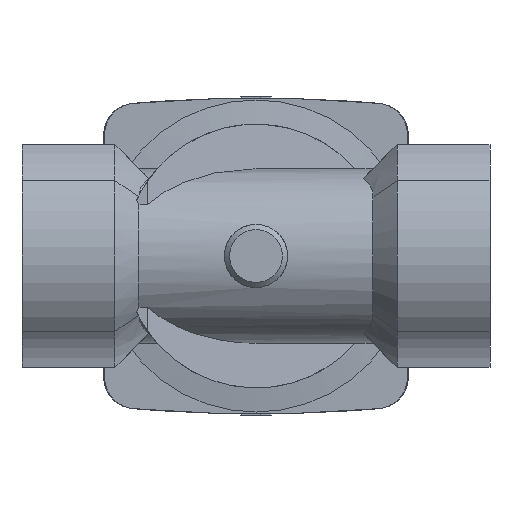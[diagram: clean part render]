
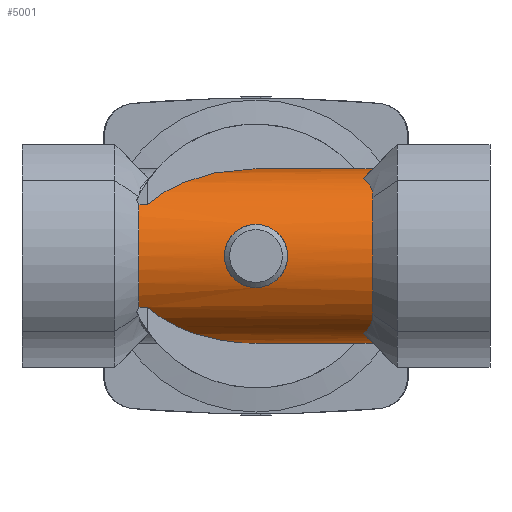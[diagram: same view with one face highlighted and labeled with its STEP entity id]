
A CAD part, front view. The second image highlights one B-rep face of the part: STEP entity #5001.
In plain terms, the highlighted cylindrical face has radius 23.5 mm (diameter 47 mm), a partial arc.
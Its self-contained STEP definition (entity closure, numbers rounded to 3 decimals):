
#236=B_SPLINE_CURVE_WITH_KNOTS('',3,(#7954,#7955,#7956,#7957,#7958),
 .UNSPECIFIED.,.F.,.F.,(4,1,4),(0.003,0.007,
0.012),.UNSPECIFIED.);
#237=B_SPLINE_CURVE_WITH_KNOTS('',3,(#7962,#7963,#7964,#7965,#7966),
 .UNSPECIFIED.,.F.,.F.,(4,1,4),(0.001,0.005,
0.009),.UNSPECIFIED.);
#238=B_SPLINE_CURVE_WITH_KNOTS('',3,(#7975,#7976,#7977,#7978,#7979,#7980,
#7981,#7982,#7983,#7984,#7985,#7986,#7987,#7988,#7989,#7990,#7991,#7992,
#7993),.UNSPECIFIED.,.T.,.F.,(1,1,1,1,1,1,1,1,1,1,1,1,1,1,1,1,1,1,1,1,1,
1,1),(-0.01,-0.007,-0.003,0.,
0.003,0.007,0.01,0.013,
0.017,0.02,0.023,0.027,
0.03,0.034,0.037,0.04,
0.044,0.047,0.05,0.054,
0.057,0.06,0.064),.UNSPECIFIED.);
#301=ELLIPSE('',#5844,43.148,23.5);
#302=ELLIPSE('',#5845,33.234,23.5);
#303=ELLIPSE('',#5847,33.234,23.5);
#304=ELLIPSE('',#5848,43.148,23.5);
#357=LINE('',#7946,#801);
#358=LINE('',#7950,#802);
#359=LINE('',#7970,#803);
#360=LINE('',#7974,#804);
#801=VECTOR('',#6399,1000.);
#802=VECTOR('',#6402,1000.);
#803=VECTOR('',#6409,1000.);
#804=VECTOR('',#6412,1000.);
#1245=ORIENTED_EDGE('',*,*,#2751,.F.);
#1246=ORIENTED_EDGE('',*,*,#2752,.F.);
#1247=ORIENTED_EDGE('',*,*,#2753,.F.);
#1248=ORIENTED_EDGE('',*,*,#2754,.F.);
#1249=ORIENTED_EDGE('',*,*,#2755,.T.);
#1250=ORIENTED_EDGE('',*,*,#2756,.F.);
#1251=ORIENTED_EDGE('',*,*,#2757,.T.);
#1252=ORIENTED_EDGE('',*,*,#2758,.F.);
#1253=ORIENTED_EDGE('',*,*,#2759,.T.);
#1254=ORIENTED_EDGE('',*,*,#2760,.F.);
#1255=ORIENTED_EDGE('',*,*,#2761,.F.);
#1256=ORIENTED_EDGE('',*,*,#2762,.F.);
#1257=ORIENTED_EDGE('',*,*,#2763,.F.);
#2751=EDGE_CURVE('',#3504,#3505,#4005,.T.);
#2752=EDGE_CURVE('',#3506,#3504,#357,.T.);
#2753=EDGE_CURVE('',#3507,#3506,#301,.F.);
#2754=EDGE_CURVE('',#3508,#3507,#358,.T.);
#2755=EDGE_CURVE('',#3508,#3509,#302,.T.);
#2756=EDGE_CURVE('',#3510,#3509,#236,.T.);
#2757=EDGE_CURVE('',#3510,#3511,#4006,.F.);
#2758=EDGE_CURVE('',#3512,#3511,#237,.T.);
#2759=EDGE_CURVE('',#3512,#3513,#303,.T.);
#2760=EDGE_CURVE('',#3514,#3513,#359,.T.);
#2761=EDGE_CURVE('',#3515,#3514,#304,.F.);
#2762=EDGE_CURVE('',#3505,#3515,#360,.F.);
#2763=EDGE_CURVE('',#3516,#3516,#238,.T.);
#3504=VERTEX_POINT('',#7944);
#3505=VERTEX_POINT('',#7945);
#3506=VERTEX_POINT('',#7947);
#3507=VERTEX_POINT('',#7949);
#3508=VERTEX_POINT('',#7951);
#3509=VERTEX_POINT('',#7953);
#3510=VERTEX_POINT('',#7959);
#3511=VERTEX_POINT('',#7961);
#3512=VERTEX_POINT('',#7967);
#3513=VERTEX_POINT('',#7969);
#3514=VERTEX_POINT('',#7971);
#3515=VERTEX_POINT('',#7973);
#3516=VERTEX_POINT('',#7994);
#4005=CIRCLE('',#5843,23.5);
#4006=CIRCLE('',#5846,23.5);
#4193=EDGE_LOOP('',(#1245,#1246,#1247,#1248,#1249,#1250,#1251,#1252,#1253,
#1254,#1255,#1256));
#4194=EDGE_LOOP('',(#1257));
#4545=FACE_BOUND('',#4193,.T.);
#4546=FACE_BOUND('',#4194,.T.);
#4897=CYLINDRICAL_SURFACE('',#5842,23.5);
#5001=ADVANCED_FACE('',(#4545,#4546),#4897,.T.);
#5842=AXIS2_PLACEMENT_3D('',#7942,#6395,#6396);
#5843=AXIS2_PLACEMENT_3D('',#7943,#6397,#6398);
#5844=AXIS2_PLACEMENT_3D('',#7948,#6400,#6401);
#5845=AXIS2_PLACEMENT_3D('',#7952,#6403,#6404);
#5846=AXIS2_PLACEMENT_3D('',#7960,#6405,#6406);
#5847=AXIS2_PLACEMENT_3D('',#7968,#6407,#6408);
#5848=AXIS2_PLACEMENT_3D('',#7972,#6410,#6411);
#6395=DIRECTION('',(-1.,0.,0.));
#6396=DIRECTION('',(0.,0.,1.));
#6397=DIRECTION('',(-1.,0.,0.));
#6398=DIRECTION('',(0.,0.,1.));
#6399=DIRECTION('',(-1.,0.,0.));
#6400=DIRECTION('',(0.545,-0.839,0.));
#6401=DIRECTION('',(-0.839,-0.545,0.));
#6402=DIRECTION('',(-1.,0.,0.));
#6403=DIRECTION('',(-0.707,0.,-0.707));
#6404=DIRECTION('',(-0.707,0.,0.707));
#6405=DIRECTION('',(1.,0.,0.));
#6406=DIRECTION('',(0.,0.,-1.));
#6407=DIRECTION('',(-0.707,0.,0.707));
#6408=DIRECTION('',(-0.707,0.,-0.707));
#6409=DIRECTION('',(1.,0.,0.));
#6410=DIRECTION('',(0.545,-0.839,0.));
#6411=DIRECTION('',(-0.839,-0.545,0.));
#6412=DIRECTION('',(-1.,0.,0.));
#7942=CARTESIAN_POINT('',(40.75,0.,0.));
#7943=CARTESIAN_POINT('',(-31.5,0.,0.));
#7944=CARTESIAN_POINT('',(-31.5,-19.,-13.829));
#7945=CARTESIAN_POINT('',(-31.5,-19.,13.829));
#7946=CARTESIAN_POINT('',(40.75,-19.,-13.829));
#7947=CARTESIAN_POINT('',(-29.257,-19.,-13.829));
#7948=CARTESIAN_POINT('',(0.,0.,0.));
#7949=CARTESIAN_POINT('',(0.,0.,-23.5));
#7950=CARTESIAN_POINT('',(40.75,0.,-23.5));
#7951=CARTESIAN_POINT('',(31.5,0.,-23.5));
#7952=CARTESIAN_POINT('',(8.,0.,0.));
#7953=CARTESIAN_POINT('',(28.866,-10.811,-20.866));
#7954=CARTESIAN_POINT('',(31.5,-17.295,-15.91));
#7955=CARTESIAN_POINT('',(31.5,-16.311,-16.98));
#7956=CARTESIAN_POINT('',(30.942,-14.143,-18.921));
#7957=CARTESIAN_POINT('',(29.619,-11.917,-20.293));
#7958=CARTESIAN_POINT('',(28.866,-10.811,-20.866));
#7959=CARTESIAN_POINT('',(31.5,-17.295,-15.91));
#7960=CARTESIAN_POINT('',(31.5,0.,0.));
#7961=CARTESIAN_POINT('',(31.5,-17.295,15.91));
#7962=CARTESIAN_POINT('',(28.866,-10.811,20.866));
#7963=CARTESIAN_POINT('',(29.619,-11.917,20.293));
#7964=CARTESIAN_POINT('',(30.94,-14.141,18.922));
#7965=CARTESIAN_POINT('',(31.5,-16.308,16.983));
#7966=CARTESIAN_POINT('',(31.5,-17.295,15.91));
#7967=CARTESIAN_POINT('',(28.866,-10.811,20.866));
#7968=CARTESIAN_POINT('',(8.,0.,0.));
#7969=CARTESIAN_POINT('',(31.5,0.,23.5));
#7970=CARTESIAN_POINT('',(-40.75,0.,23.5));
#7971=CARTESIAN_POINT('',(0.,0.,23.5));
#7972=CARTESIAN_POINT('',(0.,0.,0.));
#7973=CARTESIAN_POINT('',(-29.257,-19.,13.829));
#7974=CARTESIAN_POINT('',(40.75,-19.,13.829));
#7975=CARTESIAN_POINT('',(-3.361,-22.092,-8.047));
#7976=CARTESIAN_POINT('',(-0.001,-21.817,-8.727));
#7977=CARTESIAN_POINT('',(3.366,-22.093,-8.046));
#7978=CARTESIAN_POINT('',(6.163,-22.722,-6.163));
#7979=CARTESIAN_POINT('',(8.045,-23.33,-3.365));
#7980=CARTESIAN_POINT('',(8.726,-23.585,-0.008));
#7981=CARTESIAN_POINT('',(8.049,-23.331,3.362));
#7982=CARTESIAN_POINT('',(6.159,-22.72,6.168));
#7983=CARTESIAN_POINT('',(3.361,-22.092,8.046));
#7984=CARTESIAN_POINT('',(0.004,-21.817,8.726));
#7985=CARTESIAN_POINT('',(-3.359,-22.092,8.049));
#7986=CARTESIAN_POINT('',(-6.163,-22.722,6.164));
#7987=CARTESIAN_POINT('',(-8.048,-23.331,3.36));
#7988=CARTESIAN_POINT('',(-8.726,-23.585,-0.001));
#7989=CARTESIAN_POINT('',(-8.046,-23.33,-3.365));
#7990=CARTESIAN_POINT('',(-6.16,-22.721,-6.166));
#7991=CARTESIAN_POINT('',(-3.361,-22.092,-8.047));
#7992=CARTESIAN_POINT('',(-0.001,-21.817,-8.727));
#7993=CARTESIAN_POINT('',(3.366,-22.093,-8.046));
#7994=CARTESIAN_POINT('',(0.,-21.909,-8.5));
